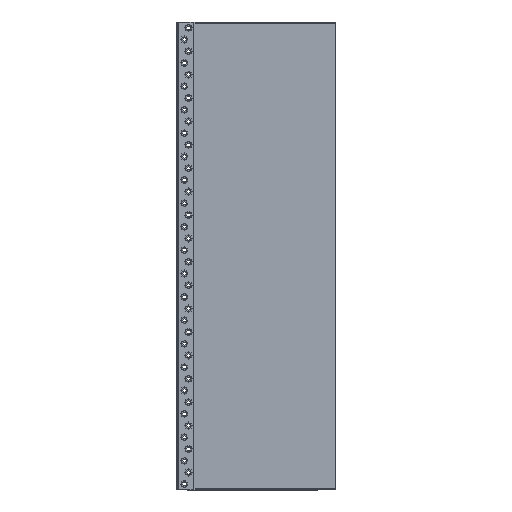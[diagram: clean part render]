
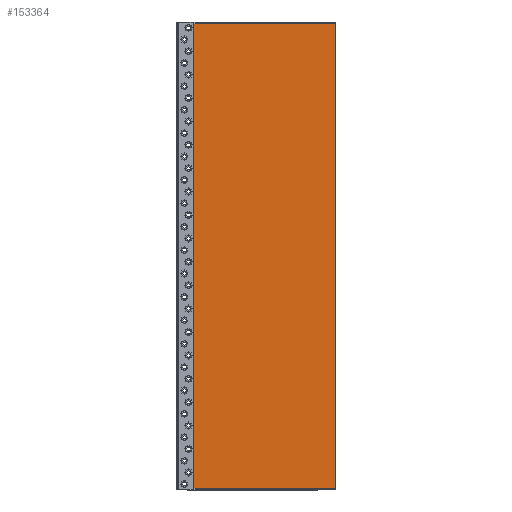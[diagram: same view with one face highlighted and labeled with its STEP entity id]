
A CAD part, top view. The second image highlights one B-rep face of the part: STEP entity #153364.
In plain terms, the highlighted planar face has unit normal (0, 0, 1).
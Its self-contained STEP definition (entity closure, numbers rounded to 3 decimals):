
#153050 = VERTEX_POINT('',#153051);
#153051 = CARTESIAN_POINT('',(6819.753,3003.,
    0.));
#153058 = PLANE('',#153059);
#153059 = AXIS2_PLACEMENT_3D('',#153060,#153061,#153062);
#153060 = CARTESIAN_POINT('',(6819.753,3003.,
    -25.));
#153061 = DIRECTION('',(0.,1.,0.));
#153062 = DIRECTION('',(1.,0.,0.));
#153070 = PLANE('',#153071);
#153071 = AXIS2_PLACEMENT_3D('',#153072,#153073,#153074);
#153072 = CARTESIAN_POINT('',(6819.753,3797.,
    -25.));
#153073 = DIRECTION('',(1.,0.,0.));
#153074 = DIRECTION('',(0.,-1.,0.));
#153082 = EDGE_CURVE('',#153050,#153083,#153085,.T.);
#153083 = VERTEX_POINT('',#153084);
#153084 = CARTESIAN_POINT('',(7061.253,3003.,
    0.));
#153085 = SURFACE_CURVE('',#153086,(#153090,#153097),.PCURVE_S1.);
#153086 = LINE('',#153087,#153088);
#153087 = CARTESIAN_POINT('',(6819.753,3003.,
    0.));
#153088 = VECTOR('',#153089,1.);
#153089 = DIRECTION('',(1.,0.,0.));
#153090 = PCURVE('',#153058,#153091);
#153091 = DEFINITIONAL_REPRESENTATION('',(#153092),#153096);
#153092 = LINE('',#153093,#153094);
#153093 = CARTESIAN_POINT('',(0.,-25.));
#153094 = VECTOR('',#153095,1.);
#153095 = DIRECTION('',(1.,0.));
#153096 = ( GEOMETRIC_REPRESENTATION_CONTEXT(2) 
PARAMETRIC_REPRESENTATION_CONTEXT() REPRESENTATION_CONTEXT('2D SPACE',''
  ) );
#153097 = PCURVE('',#153098,#153103);
#153098 = PLANE('',#153099);
#153099 = AXIS2_PLACEMENT_3D('',#153100,#153101,#153102);
#153100 = CARTESIAN_POINT('',(6940.503,3400.,
    0.));
#153101 = DIRECTION('',(0.,0.,1.));
#153102 = DIRECTION('',(1.,0.,0.));
#153103 = DEFINITIONAL_REPRESENTATION('',(#153104),#153108);
#153104 = LINE('',#153105,#153106);
#153105 = CARTESIAN_POINT('',(-120.75,-397.));
#153106 = VECTOR('',#153107,1.);
#153107 = DIRECTION('',(1.,0.));
#153108 = ( GEOMETRIC_REPRESENTATION_CONTEXT(2) 
PARAMETRIC_REPRESENTATION_CONTEXT() REPRESENTATION_CONTEXT('2D SPACE',''
  ) );
#153126 = PLANE('',#153127);
#153127 = AXIS2_PLACEMENT_3D('',#153128,#153129,#153130);
#153128 = CARTESIAN_POINT('',(7061.253,3003.,
    -25.));
#153129 = DIRECTION('',(-1.,0.,0.));
#153130 = DIRECTION('',(0.,1.,0.));
#153168 = EDGE_CURVE('',#153083,#153169,#153171,.T.);
#153169 = VERTEX_POINT('',#153170);
#153170 = CARTESIAN_POINT('',(7061.253,3797.,
    0.));
#153171 = SURFACE_CURVE('',#153172,(#153176,#153183),.PCURVE_S1.);
#153172 = LINE('',#153173,#153174);
#153173 = CARTESIAN_POINT('',(7061.253,3003.,
    0.));
#153174 = VECTOR('',#153175,1.);
#153175 = DIRECTION('',(0.,1.,0.));
#153176 = PCURVE('',#153126,#153177);
#153177 = DEFINITIONAL_REPRESENTATION('',(#153178),#153182);
#153178 = LINE('',#153179,#153180);
#153179 = CARTESIAN_POINT('',(0.,-25.));
#153180 = VECTOR('',#153181,1.);
#153181 = DIRECTION('',(1.,0.));
#153182 = ( GEOMETRIC_REPRESENTATION_CONTEXT(2) 
PARAMETRIC_REPRESENTATION_CONTEXT() REPRESENTATION_CONTEXT('2D SPACE',''
  ) );
#153183 = PCURVE('',#153098,#153184);
#153184 = DEFINITIONAL_REPRESENTATION('',(#153185),#153189);
#153185 = LINE('',#153186,#153187);
#153186 = CARTESIAN_POINT('',(120.75,-397.));
#153187 = VECTOR('',#153188,1.);
#153188 = DIRECTION('',(0.,1.));
#153189 = ( GEOMETRIC_REPRESENTATION_CONTEXT(2) 
PARAMETRIC_REPRESENTATION_CONTEXT() REPRESENTATION_CONTEXT('2D SPACE',''
  ) );
#153207 = PLANE('',#153208);
#153208 = AXIS2_PLACEMENT_3D('',#153209,#153210,#153211);
#153209 = CARTESIAN_POINT('',(7061.253,3797.,
    -25.));
#153210 = DIRECTION('',(0.,-1.,0.));
#153211 = DIRECTION('',(-1.,0.,0.));
#153244 = EDGE_CURVE('',#153169,#153245,#153247,.T.);
#153245 = VERTEX_POINT('',#153246);
#153246 = CARTESIAN_POINT('',(6819.753,3797.,
    0.));
#153247 = SURFACE_CURVE('',#153248,(#153252,#153259),.PCURVE_S1.);
#153248 = LINE('',#153249,#153250);
#153249 = CARTESIAN_POINT('',(7061.253,3797.,
    0.));
#153250 = VECTOR('',#153251,1.);
#153251 = DIRECTION('',(-1.,0.,0.));
#153252 = PCURVE('',#153207,#153253);
#153253 = DEFINITIONAL_REPRESENTATION('',(#153254),#153258);
#153254 = LINE('',#153255,#153256);
#153255 = CARTESIAN_POINT('',(0.,-25.));
#153256 = VECTOR('',#153257,1.);
#153257 = DIRECTION('',(1.,0.));
#153258 = ( GEOMETRIC_REPRESENTATION_CONTEXT(2) 
PARAMETRIC_REPRESENTATION_CONTEXT() REPRESENTATION_CONTEXT('2D SPACE',''
  ) );
#153259 = PCURVE('',#153098,#153260);
#153260 = DEFINITIONAL_REPRESENTATION('',(#153261),#153265);
#153261 = LINE('',#153262,#153263);
#153262 = CARTESIAN_POINT('',(120.75,397.));
#153263 = VECTOR('',#153264,1.);
#153264 = DIRECTION('',(-1.,0.));
#153265 = ( GEOMETRIC_REPRESENTATION_CONTEXT(2) 
PARAMETRIC_REPRESENTATION_CONTEXT() REPRESENTATION_CONTEXT('2D SPACE',''
  ) );
#153315 = EDGE_CURVE('',#153245,#153050,#153316,.T.);
#153316 = SURFACE_CURVE('',#153317,(#153321,#153328),.PCURVE_S1.);
#153317 = LINE('',#153318,#153319);
#153318 = CARTESIAN_POINT('',(6819.753,3797.,
    0.));
#153319 = VECTOR('',#153320,1.);
#153320 = DIRECTION('',(0.,-1.,0.));
#153321 = PCURVE('',#153070,#153322);
#153322 = DEFINITIONAL_REPRESENTATION('',(#153323),#153327);
#153323 = LINE('',#153324,#153325);
#153324 = CARTESIAN_POINT('',(0.,-25.));
#153325 = VECTOR('',#153326,1.);
#153326 = DIRECTION('',(1.,0.));
#153327 = ( GEOMETRIC_REPRESENTATION_CONTEXT(2) 
PARAMETRIC_REPRESENTATION_CONTEXT() REPRESENTATION_CONTEXT('2D SPACE',''
  ) );
#153328 = PCURVE('',#153098,#153329);
#153329 = DEFINITIONAL_REPRESENTATION('',(#153330),#153334);
#153330 = LINE('',#153331,#153332);
#153331 = CARTESIAN_POINT('',(-120.75,397.));
#153332 = VECTOR('',#153333,1.);
#153333 = DIRECTION('',(0.,-1.));
#153334 = ( GEOMETRIC_REPRESENTATION_CONTEXT(2) 
PARAMETRIC_REPRESENTATION_CONTEXT() REPRESENTATION_CONTEXT('2D SPACE',''
  ) );
#153364 = ADVANCED_FACE('',(#153365),#153098,.T.);
#153365 = FACE_BOUND('',#153366,.T.);
#153366 = EDGE_LOOP('',(#153367,#153368,#153369,#153370));
#153367 = ORIENTED_EDGE('',*,*,#153082,.T.);
#153368 = ORIENTED_EDGE('',*,*,#153168,.T.);
#153369 = ORIENTED_EDGE('',*,*,#153244,.T.);
#153370 = ORIENTED_EDGE('',*,*,#153315,.T.);
